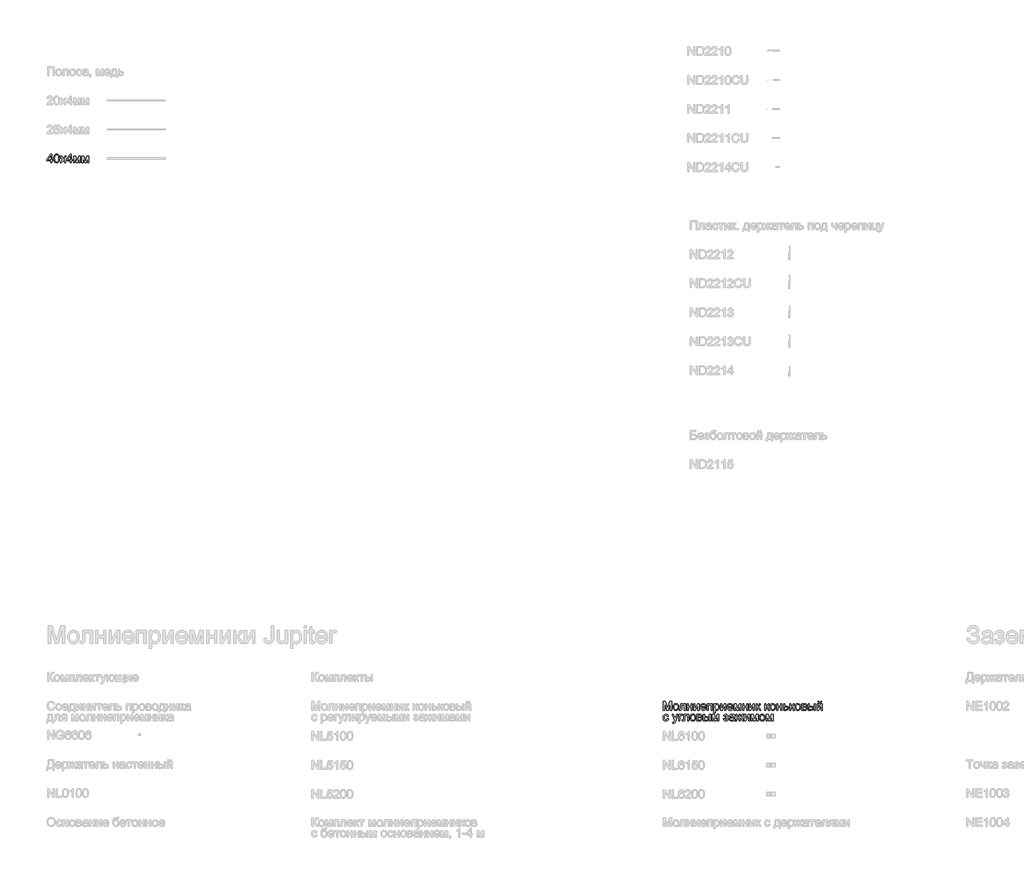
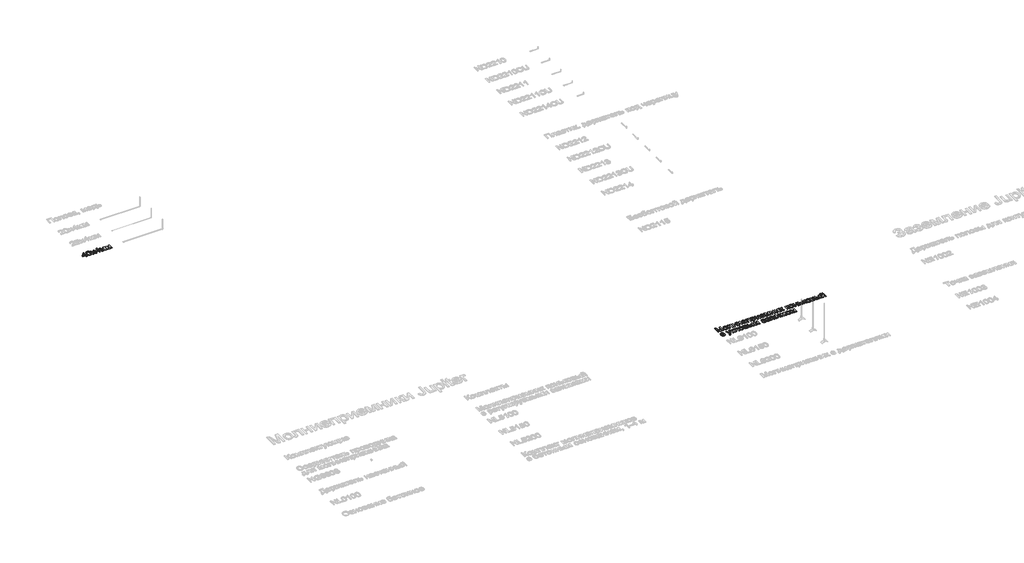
# One storey, part 69 of 124: 2 proxies.
"""IFC4 building model written with IfcOpenShell, lengths in millimetres."""

from ifc_helpers import new_model, si_unit, origin, origin_with_axes, place, context, project, spatial, polyline, outline, extrude, element, save

model = new_model("IFC4")

# Units and contexts
model_context = context("Model", 3, world=origin())
ifc_project = project(units=[si_unit("LENGTHUNIT", "METRE", prefix="MILLI")], contexts=[model_context])

# Site, building, storey
site = spatial("IfcSite", under=ifc_project)
building = spatial("IfcBuilding", under=site)
storey = spatial("IfcBuildingStorey", under=building, Name="Этаж 01", Elevation=0.0)

# Proxies
placement = place(None, origin())
element("IfcBuildingElementProxy", 1, Name="300", ObjectType="300", at=placement, inside=storey, context=model_context, shape_type="SweptSolid", body=[
    extrude(outline(polyline([(1408.1265271, -32219.5141033), (1408.1265271, -32148.8807602), (1271.5687305, -32148.8807602), (1271.5687305, -32111.2096439), (1417.5443062, -31922.8540624), (1445.7976434, -31922.8540624), (1445.7976434, -32111.2096439), (1483.4687597, -32111.2096439), (1483.4687597, -32148.8807602), (1445.7976434, -32148.8807602), (1445.7976434, -32219.5141033), (1408.1265271, -32219.5141033)]), holes=[polyline([(1408.1265271, -32111.2096439), (1408.1265271, -31994.8117806), (1317.9218619, -32111.2096439), (1408.1265271, -32111.2096439)])]), origin_with_axes(), (0.0, 0.0, 1.0), 20.0),
    extrude(outline(polyline([(1516.4309865, -32071.2576592), (1519.1992985, -32023.0191326), (1527.5042345, -31984.5478729), (1541.2630211, -31955.2552691), (1560.3928849, -31934.5527098), (1585.0317815, -31922.2470571), (1615.3176668, -31918.1451728), (1638.5310207, -31920.573194), (1659.3163534, -31927.8572575), (1676.6987777, -31939.7122548), (1689.7034062, -31955.8530773), (1699.5258555, -31976.1417694), (1707.361742, -32000.4403751), (1712.4936958, -32031.2964775), (1714.2043471, -32071.2576592), (1711.4636262, -32119.2202743), (1703.2414636, -32157.5995635), (1689.5654504, -32186.9197585), (1670.4631778, -32207.7050912), (1645.7690989, -32220.0935174), (1615.3176668, -32224.2229928), (1594.5691222, -32222.4295681), (1576.1750225, -32217.0492939), (1560.1353675, -32208.0821703), (1546.4501573, -32195.5281972), (1533.31677, -32172.8344766), (1523.9357792, -32144.5581467), (1518.3071846, -32110.6992076), (1516.4309865, -32071.2576592)]), holes=[polyline([(1554.1021028, -32071.1840828), (1558.5166867, -32130.4406752), (1564.0349166, -32150.7086739), (1571.7604385, -32164.7364742), (1591.4789135, -32181.0980259), (1615.3176668, -32186.5518765), (1639.15642, -32181.0796318), (1658.874895, -32164.6628978), (1666.6004169, -32150.6121048), (1672.1186468, -32130.3487047), (1676.5332308, -32071.1840828), (1672.2657996, -32013.2610627), (1666.9315107, -31993.0597426), (1659.4635062, -31978.6985492), (1639.7818194, -31961.5368541), (1614.8762084, -31955.8162891), (1591.2949725, -31960.8562725), (1572.3490497, -31975.9762225), (1564.3660104, -31991.6112072), (1558.6638395, -32012.6908456), (1554.1021028, -32071.1840828)])]), origin_with_axes(), (0.0, 0.0, 1.0), 20.0),
    extrude(outline(polyline([(1733.0399052, -32219.5141033), (1813.5324858, -32108.2665879), (1737.7487948, -31998.196295), (1783.0718566, -31998.196295), (1819.6393269, -32051.1713023), (1836.7090515, -32076.1872779), (1851.4979077, -32055.733039), (1893.1421495, -31998.196295), (1938.4652113, -31998.196295), (1858.8555476, -32108.2665879), (1935.5221554, -32219.5141033), (1890.1990936, -32219.5141033), (1844.0666914, -32152.6331565), (1835.6054055, -32140.4194743), (1778.362967, -32219.5141033), (1733.0399052, -32219.5141033)])), origin_with_axes(), (0.0, 0.0, 1.0), 20.0),
    extrude(outline(polyline([(2081.497731, -32219.5141033), (2081.497731, -32148.8807602), (1944.9399344, -32148.8807602), (1944.9399344, -32111.2096439), (2090.9155101, -31922.8540624), (2119.1688474, -31922.8540624), (2119.1688474, -32111.2096439), (2156.8399637, -32111.2096439), (2156.8399637, -32148.8807602), (2119.1688474, -32148.8807602), (2119.1688474, -32219.5141033), (2081.497731, -32219.5141033)]), holes=[polyline([(2081.497731, -32111.2096439), (2081.497731, -31994.8117806), (1991.2930658, -32111.2096439), (2081.497731, -32111.2096439)])]), origin_with_axes(), (0.0, 0.0, 1.0), 20.0),
    extrude(outline(polyline([(2199.2199695, -31998.196295), (2264.0407771, -31998.196295), (2313.999152, -32175.3682638), (2367.8570761, -31998.196295), (2429.9555569, -31998.196295), (2429.9555569, -32219.5141033), (2392.2844406, -32219.5141033), (2392.2844406, -32041.3120648), (2338.1322109, -32219.5141033), (2288.6888707, -32219.5141033), (2236.8910858, -32032.7772025), (2236.8910858, -32219.5141033), (2199.2199695, -32219.5141033), (2199.2199695, -31998.196295)])), origin_with_axes(), (0.0, 0.0, 1.0), 20.0),
    extrude(outline(polyline([(2486.4622313, -31998.196295), (2551.2830389, -31998.196295), (2601.2414138, -32175.3682638), (2655.0993379, -31998.196295), (2717.1978187, -31998.196295), (2717.1978187, -32219.5141033), (2679.5267024, -32219.5141033), (2679.5267024, -32041.3120648), (2625.3744727, -32219.5141033), (2575.9311326, -32219.5141033), (2524.1333476, -32032.7772025), (2524.1333476, -32219.5141033), (2486.4622313, -32219.5141033), (2486.4622313, -31998.196295)])), origin_with_axes(), (0.0, 0.0, 1.0), 20.0),
])
element("IfcBuildingElementProxy", 2, Name="300", ObjectType="300", at=placement, inside=storey, context=model_context, shape_type="SweptSolid", body=[
    extrude(outline(polyline([(22499.8220677, -51074.498362), (22499.8220677, -50773.1294316), (22564.6428752, -50773.1294316), (22626.2998976, -50985.5444956), (22638.7343091, -51029.9110642), (22652.1987901, -50981.8656756), (22712.8257429, -50773.1294316), (22777.6465505, -50773.1294316), (22777.6465505, -51074.498362), (22739.9754341, -51074.498362), (22739.9754341, -50810.8005479), (22664.2653195, -51074.498362), (22613.2032986, -51074.498362), (22537.493184, -50810.8005479), (22537.493184, -51074.498362), (22499.8220677, -51074.498362)])), origin_with_axes(), (0.0, 0.0, 1.0), 20.0),
    extrude(outline(polyline([(22829.4443354, -50963.8394579), (22831.4814819, -50935.1768519), (22837.5929216, -50910.4781745), (22847.7786543, -50889.7434255), (22862.0386801, -50872.972605), (22876.395275, -50862.2534434), (22892.2417919, -50854.5968994), (22909.578231, -50850.002973), (22928.4045921, -50848.4716642), (22949.1876255, -50850.336366), (22967.9794977, -50855.9304716), (22984.7802086, -50865.2539809), (22999.5897581, -50878.306894), (23011.6769809, -50894.6477523), (23020.3107115, -50913.8350977), (23025.4909499, -50935.8689299), (23027.217696, -50960.7492491), (23024.1642754, -50998.8066415), (23015.0040137, -51027.7773486), (23000.0036254, -51049.4731893), (22979.4298248, -51065.7059823), (22954.9932633, -51075.8319342), (22928.4045921, -51079.2072515), (22907.318056, -51077.3494475), (22888.3514398, -51071.7760352), (22871.5047437, -51062.4870149), (22856.7779676, -51049.4823863), (22844.8195035, -51032.9828788), (22836.2777434, -51013.2092216), (22831.1526874, -50990.1614146), (22829.4443354, -50963.8394579)]), holes=[polyline([(22867.1154517, -50963.7658815), (22871.4748533, -50997.8593454), (22884.5530582, -51022.1487541), (22904.234745, -51036.6892899), (22928.4045921, -51041.5361352), (22952.4640746, -51036.6616988), (22972.1089731, -51022.0383895), (22985.187178, -50997.427084), (22989.5465797, -50962.5886591), (22985.1595869, -50929.4884766), (22971.9986085, -50905.5301616), (22952.3261188, -50890.9896258), (22928.4045921, -50886.1427805), (22904.234745, -50890.9712317), (22884.5530582, -50905.4565852), (22871.4748533, -50929.6908117), (22867.1154517, -50963.7658815)])]), origin_with_axes(), (0.0, 0.0, 1.0), 20.0),
    extrude(outline(polyline([(23088.43326, -50853.1805537), (23257.9532834, -50853.1805537), (23257.9532834, -51074.2776328), (23220.282167, -51074.2776328), (23220.282167, -50890.85167), (23126.1043763, -50890.85167), (23126.1043763, -50996.4338026), (23123.5659905, -51045.1413788), (23118.8111157, -51056.1686416), (23109.6232629, -51065.7059823), (23095.6805353, -51072.3002671), (23076.6610361, -51074.498362), (23046.0532541, -51072.5853756), (23046.0532541, -51036.8272457), (23062.9022495, -51036.8272457), (23079.9351859, -51034.5095891), (23086.7410028, -51027.1519492), (23088.43326, -50994.3000871), (23088.43326, -50853.1805537)])), origin_with_axes(), (0.0, 0.0, 1.0), 20.0),
    extrude(outline(polyline([(23314.4599578, -50853.1805537), (23352.1310741, -50853.1805537), (23352.1310741, -50937.9405654), (23451.0177544, -50937.9405654), (23451.0177544, -50853.1805537), (23488.6888707, -50853.1805537), (23488.6888707, -51074.498362), (23451.0177544, -51074.498362), (23451.0177544, -50975.6116817), (23352.1310741, -50975.6116817), (23352.1310741, -51074.498362), (23314.4599578, -51074.498362), (23314.4599578, -50853.1805537)])), origin_with_axes(), (0.0, 0.0, 1.0), 20.0),
    extrude(outline(polyline([(23545.1955452, -50853.1805537), (23582.8666615, -50853.1805537), (23582.8666615, -51021.9648131), (23675.4257715, -50853.1805537), (23724.1333476, -50853.1805537), (23724.1333476, -51074.498362), (23686.4622313, -51074.498362), (23686.4622313, -50906.7441722), (23594.4917325, -51074.498362), (23545.1955452, -51074.498362), (23545.1955452, -50853.1805537)])), origin_with_axes(), (0.0, 0.0, 1.0), 20.0),
    extrude(outline(polyline([(23935.5919185, -51008.5739085), (23972.5272708, -51013.282798), (23959.2191396, -51041.1130709), (23937.9831514, -51061.9167978), (23909.2975529, -51074.8846381), (23873.6405905, -51079.2072515), (23850.2662882, -51077.3425497), (23829.4395688, -51071.7484441), (23811.1604321, -51062.4249348), (23795.4288783, -51049.3720217), (23782.7783362, -51032.9529884), (23773.7422347, -51013.5311184), (23768.3205738, -50991.1064115), (23766.5133535, -50965.6788678), (23768.3389679, -50939.3891007), (23773.8158111, -50916.2171336), (23782.9438831, -50896.1629663), (23795.7231839, -50879.226599), (23811.413351, -50865.771315), (23829.2740219, -50856.1603979), (23849.3051965, -50850.3938476), (23871.5068749, -50848.4716642), (23892.9934827, -50850.3892491), (23912.4245498, -50856.1420038), (23929.8000763, -50865.7299283), (23945.1200621, -50879.1530226), (23957.6257507, -50896.0526017), (23966.5583854, -50916.0699808), (23971.9179662, -50939.2051598), (23973.7044932, -50965.4581386), (23973.483764, -50975.6116817), (23804.1844698, -50975.6116817), (23810.7051782, -51003.8098366), (23825.8527193, -51024.5399871), (23847.7141069, -51037.2870982), (23874.3763545, -51041.5361352), (23894.4259232, -51039.5679666), (23911.3117068, -51033.6634605), (23925.0337052, -51023.4547352), (23935.5919185, -51008.5739085)]), holes=[polyline([(23804.1844698, -50937.9405654), (23936.0333769, -50937.9405654), (23930.9382112, -50918.0381495), (23920.9502151, -50903.8011162), (23898.9876599, -50890.5573644), (23871.3597221, -50886.1427805), (23845.9666674, -50889.6652506), (23824.9698025, -50900.2326609), (23810.3740844, -50916.7045772), (23804.1844698, -50937.9405654)])]), origin_with_axes(), (0.0, 0.0, 1.0), 20.0),
    extrude(outline(polyline([(24011.3756095, -50853.1805537), (24180.8956329, -50853.1805537), (24180.8956329, -51074.498362), (24143.2245165, -51074.498362), (24143.2245165, -50890.85167), (24049.0467258, -50890.85167), (24049.0467258, -51074.498362), (24011.3756095, -51074.498362), (24011.3756095, -50853.1805537)])), origin_with_axes(), (0.0, 0.0, 1.0), 20.0),
    extrude(outline(polyline([(24237.4023073, -51159.2583737), (24237.4023073, -50853.1805537), (24275.0734236, -50853.1805537), (24275.0734236, -50890.115906), (24287.3606823, -50871.8965502), (24301.1194689, -50858.8827246), (24317.1591239, -50851.0744293), (24336.2889876, -50848.4716642), (24361.7648158, -50852.1136959), (24384.0400706, -50863.0397912), (24402.176653, -50880.5877623), (24415.2364638, -50904.0954218), (24423.1275326, -50931.8521184), (24425.7578888, -50962.1472007), (24422.7872417, -50994.3644664), (24413.8753004, -51023.1788237), (24399.3071734, -51047.1279416), (24379.3679693, -51064.7494891), (24356.1454183, -51075.5928109), (24331.7272509, -51079.2072515), (24314.409206, -51076.7884274), (24298.9489651, -51069.5319551), (24285.7144103, -51058.5782687), (24275.0734236, -51045.0678024), (24275.0734236, -51159.2583737), (24237.4023073, -51159.2583737)]), holes=[polyline([(24275.0734236, -50965.6052914), (24279.1477167, -50999.3768586), (24291.370596, -51022.9948827), (24309.4060108, -51036.9008221), (24330.9179105, -51041.5361352), (24352.7792981, -51036.7352752), (24371.2745654, -51022.3326951), (24383.8837207, -50997.8501483), (24388.0867725, -50962.8093883), (24383.9848883, -50929.2217621), (24371.6792356, -50905.2726442), (24353.6714119, -50890.9252464), (24332.4630149, -50886.1427805), (24311.1718444, -50891.2287491), (24292.474242, -50906.4866548), (24279.4236282, -50931.4382511), (24275.0734236, -50965.6052914)])]), origin_with_axes(), (0.0, 0.0, 1.0), 20.0),
    extrude(outline(polyline([(24468.1378947, -50853.1805537), (24505.809011, -50853.1805537), (24505.809011, -51021.9648131), (24598.368121, -50853.1805537), (24647.0756971, -50853.1805537), (24647.0756971, -51074.498362), (24609.4045808, -51074.498362), (24609.4045808, -50906.7441722), (24517.434082, -51074.498362), (24468.1378947, -51074.498362), (24468.1378947, -50853.1805537)])), origin_with_axes(), (0.0, 0.0, 1.0), 20.0),
    extrude(outline(polyline([(24858.534268, -51008.5739085), (24895.4696203, -51013.282798), (24882.1614891, -51041.1130709), (24860.9255009, -51061.9167978), (24832.2399024, -51074.8846381), (24796.58294, -51079.2072515), (24773.2086377, -51077.3425497), (24752.3819183, -51071.7484441), (24734.1027816, -51062.4249348), (24718.3712278, -51049.3720217), (24705.7206857, -51032.9529884), (24696.6845842, -51013.5311184), (24691.2629233, -50991.1064115), (24689.455703, -50965.6788678), (24691.2813174, -50939.3891007), (24696.7581606, -50916.2171336), (24705.8862326, -50896.1629663), (24718.6655334, -50879.226599), (24734.3557005, -50865.771315), (24752.2163714, -50856.1603979), (24772.247546, -50850.3938476), (24794.4492244, -50848.4716642), (24815.9358322, -50850.3892491), (24835.3668993, -50856.1420038), (24852.7424258, -50865.7299283), (24868.0624116, -50879.1530226), (24880.5681002, -50896.0526017), (24889.5007349, -50916.0699808), (24894.8603157, -50939.2051598), (24896.6468427, -50965.4581386), (24896.4261135, -50975.6116817), (24727.1268193, -50975.6116817), (24733.6475277, -51003.8098366), (24748.7950688, -51024.5399871), (24770.6564564, -51037.2870982), (24797.318704, -51041.5361352), (24817.3682727, -51039.5679666), (24834.2540563, -51033.6634605), (24847.9760547, -51023.4547352), (24858.534268, -51008.5739085)]), holes=[polyline([(24727.1268193, -50937.9405654), (24858.9757264, -50937.9405654), (24853.8805607, -50918.0381495), (24843.8925646, -50903.8011162), (24821.9300094, -50890.5573644), (24794.3020716, -50886.1427805), (24768.9090169, -50889.6652506), (24747.912152, -50900.2326609), (24733.3164339, -50916.7045772), (24727.1268193, -50937.9405654)])]), origin_with_axes(), (0.0, 0.0, 1.0), 20.0),
    extrude(outline(polyline([(24934.317959, -50853.1805537), (24999.1387665, -50853.1805537), (25049.0971415, -51030.3525226), (25102.9550656, -50853.1805537), (25165.0535464, -50853.1805537), (25165.0535464, -51074.498362), (25127.38243, -51074.498362), (25127.38243, -50896.2963235), (25073.2302004, -51074.498362), (25023.7868602, -51074.498362), (24971.9890753, -50887.7614613), (24971.9890753, -51074.498362), (24934.317959, -51074.498362), (24934.317959, -50853.1805537)])), origin_with_axes(), (0.0, 0.0, 1.0), 20.0),
    extrude(outline(polyline([(25221.5602208, -50853.1805537), (25259.2313371, -50853.1805537), (25259.2313371, -50937.9405654), (25358.1180174, -50937.9405654), (25358.1180174, -50853.1805537), (25395.7891337, -50853.1805537), (25395.7891337, -51074.498362), (25358.1180174, -51074.498362), (25358.1180174, -50975.6116817), (25259.2313371, -50975.6116817), (25259.2313371, -51074.498362), (25221.5602208, -51074.498362), (25221.5602208, -50853.1805537)])), origin_with_axes(), (0.0, 0.0, 1.0), 20.0),
    extrude(outline(polyline([(25452.2958082, -50853.1805537), (25489.9669245, -50853.1805537), (25489.9669245, -51021.9648131), (25582.5260345, -50853.1805537), (25631.2336106, -50853.1805537), (25631.2336106, -51074.498362), (25593.5624943, -51074.498362), (25593.5624943, -50906.7441722), (25501.5919955, -51074.498362), (25452.2958082, -51074.498362), (25452.2958082, -50853.1805537)])), origin_with_axes(), (0.0, 0.0, 1.0), 20.0),
    extrude(outline(polyline([(25687.7402851, -50853.1805537), (25725.4114014, -50853.1805537), (25725.4114014, -50947.3583445), (25740.7336865, -50945.6660873), (25750.6481063, -50940.5893158), (25759.4220919, -50927.3455639), (25771.3230744, -50901.1523659), (25788.5031636, -50867.1232813), (25803.6599018, -50856.0500333), (25831.2142632, -50853.1805537), (25838.4247503, -50853.1805537), (25838.4247503, -50891.0723992), (25828.2712073, -50890.85167), (25809.8771075, -50894.8247956), (25796.9276613, -50919.620042), (25781.7341349, -50946.4386395), (25760.4337673, -50959.5720267), (25772.3715381, -50964.874126), (25784.1989442, -50974.2321242), (25807.5226627, -51005.1158177), (25847.8425294, -51074.498362), (25805.0210652, -51074.498362), (25765.5105389, -51006.5873457), (25745.6449111, -50977.8557619), (25736.3558908, -50972.6410346), (25725.4114014, -50970.9027922), (25725.4114014, -51074.498362), (25687.7402851, -51074.498362), (25687.7402851, -50853.1805537)])), origin_with_axes(), (0.0, 0.0, 1.0), 20.0),
    extrude(outline(polyline([(25989.1092155, -50853.1805537), (26026.7803319, -50853.1805537), (26026.7803319, -50947.3583445), (26042.102617, -50945.6660873), (26052.0170367, -50940.5893158), (26060.7910223, -50927.3455639), (26072.6920049, -50901.1523659), (26089.872094, -50867.1232813), (26105.0288322, -50856.0500333), (26132.5831937, -50853.1805537), (26139.7936808, -50853.1805537), (26139.7936808, -50891.0723992), (26129.6401377, -50890.85167), (26111.2460379, -50894.8247956), (26098.2965917, -50919.620042), (26083.1030653, -50946.4386395), (26061.8026978, -50959.5720267), (26073.7404685, -50964.874126), (26085.5678747, -50974.2321242), (26108.8915932, -51005.1158177), (26149.2114598, -51074.498362), (26106.3899956, -51074.498362), (26066.8794693, -51006.5873457), (26047.0138416, -50977.8557619), (26037.7248212, -50972.6410346), (26026.7803319, -50970.9027922), (26026.7803319, -51074.498362), (25989.1092155, -51074.498362), (25989.1092155, -50853.1805537)])), origin_with_axes(), (0.0, 0.0, 1.0), 20.0),
    extrude(outline(polyline([(26163.3381285, -50963.8394579), (26165.375275, -50935.1768519), (26171.4867147, -50910.4781745), (26181.6724474, -50889.7434255), (26195.9324732, -50872.972605), (26210.2890681, -50862.2534434), (26226.135585, -50854.5968994), (26243.4720241, -50850.002973), (26262.2983852, -50848.4716642), (26283.0814186, -50850.336366), (26301.8732908, -50855.9304716), (26318.6740017, -50865.2539809), (26333.4835512, -50878.306894), (26345.570774, -50894.6477523), (26354.2045046, -50913.8350977), (26359.384743, -50935.8689299), (26361.1114891, -50960.7492491), (26358.0580685, -50998.8066415), (26348.8978068, -51027.7773486), (26333.8974185, -51049.4731893), (26313.3236179, -51065.7059823), (26288.8870564, -51075.8319342), (26262.2983852, -51079.2072515), (26241.2118491, -51077.3494475), (26222.2452329, -51071.7760352), (26205.3985368, -51062.4870149), (26190.6717607, -51049.4823863), (26178.7132966, -51032.9828788), (26170.1715365, -51013.2092216), (26165.0464805, -50990.1614146), (26163.3381285, -50963.8394579)]), holes=[polyline([(26201.0092448, -50963.7658815), (26205.3686464, -50997.8593454), (26218.4468513, -51022.1487541), (26238.1285381, -51036.6892899), (26262.2983852, -51041.5361352), (26286.3578676, -51036.6616988), (26306.0027662, -51022.0383895), (26319.0809711, -50997.427084), (26323.4403728, -50962.5886591), (26319.05338, -50929.4884766), (26305.8924016, -50905.5301616), (26286.2199119, -50890.9896258), (26262.2983852, -50886.1427805), (26238.1285381, -50890.9712317), (26218.4468513, -50905.4565852), (26205.3686464, -50929.6908117), (26201.0092448, -50963.7658815)])]), origin_with_axes(), (0.0, 0.0, 1.0), 20.0),
    extrude(outline(polyline([(26403.4914949, -50853.1805537), (26441.1626112, -50853.1805537), (26441.1626112, -50937.9405654), (26540.0492915, -50937.9405654), (26540.0492915, -50853.1805537), (26577.7204078, -50853.1805537), (26577.7204078, -51074.498362), (26540.0492915, -51074.498362), (26540.0492915, -50975.6116817), (26441.1626112, -50975.6116817), (26441.1626112, -51074.498362), (26403.4914949, -51074.498362), (26403.4914949, -50853.1805537)])), origin_with_axes(), (0.0, 0.0, 1.0), 20.0),
    extrude(outline(polyline([(26634.2270823, -50853.1805537), (26671.8981986, -50853.1805537), (26671.8981986, -50933.2316759), (26715.308274, -50933.2316759), (26752.9426021, -50937.9497624), (26768.0901433, -50943.8473707), (26780.7912692, -50952.1040222), (26790.8344476, -50962.4346085), (26798.0081465, -50974.554021), (26803.7471057, -51004.1593245), (26798.8634722, -51031.1158777), (26784.2125717, -51053.8601821), (26772.9806746, -51062.8893858), (26758.819517, -51069.338817), (26721.7094207, -51074.498362), (26634.2270823, -51074.498362), (26634.2270823, -50853.1805537)]), holes=[polyline([(26671.8981986, -51036.8272457), (26707.0677173, -51036.8272457), (26734.3553643, -51034.84988), (26752.5011437, -51028.9177828), (26762.682278, -51018.7918309), (26766.0759894, -51004.2329009), (26763.5651947, -50991.9272482), (26756.0328109, -50981.0563352), (26739.8919884, -50973.4411779), (26711.5558777, -50970.9027922), (26671.8981986, -50970.9027922), (26671.8981986, -51036.8272457)])]), origin_with_axes(), (0.0, 0.0, 1.0), 20.0),
    extrude(outline(polyline([(26850.836001, -50853.1805537), (26888.5071174, -50853.1805537), (26888.5071174, -50947.3583445), (26903.8294025, -50945.6660873), (26913.7438222, -50940.5893158), (26922.5178078, -50927.3455639), (26934.4187904, -50901.1523659), (26951.5988795, -50867.1232813), (26966.7556177, -50856.0500333), (26994.3099792, -50853.1805537), (27001.5204663, -50853.1805537), (27001.5204663, -50891.0723992), (26991.3669232, -50890.85167), (26972.9728234, -50894.8247956), (26960.0233772, -50919.620042), (26944.8298508, -50946.4386395), (26923.5294833, -50959.5720267), (26935.467254, -50964.874126), (26947.2946602, -50974.2321242), (26970.6183787, -51005.1158177), (27010.9382453, -51074.498362), (26968.1167811, -51074.498362), (26928.6062548, -51006.5873457), (26908.7406271, -50977.8557619), (26899.4516067, -50972.6410346), (26888.5071174, -50970.9027922), (26888.5071174, -51074.498362), (26850.836001, -51074.498362), (26850.836001, -50853.1805537)])), origin_with_axes(), (0.0, 0.0, 1.0), 20.0),
    extrude(outline(polyline([(27025.064914, -50963.8394579), (27027.1020605, -50935.1768519), (27033.2135002, -50910.4781745), (27043.3992329, -50889.7434255), (27057.6592587, -50872.972605), (27072.0158536, -50862.2534434), (27087.8623705, -50854.5968994), (27105.1988096, -50850.002973), (27124.0251707, -50848.4716642), (27144.8082041, -50850.336366), (27163.6000763, -50855.9304716), (27180.4007872, -50865.2539809), (27195.2103367, -50878.306894), (27207.2975595, -50894.6477523), (27215.9312901, -50913.8350977), (27221.1115285, -50935.8689299), (27222.8382746, -50960.7492491), (27219.784854, -50998.8066415), (27210.6245923, -51027.7773486), (27195.624204, -51049.4731893), (27175.0504034, -51065.7059823), (27150.6138419, -51075.8319342), (27124.0251707, -51079.2072515), (27102.9386346, -51077.3494475), (27083.9720184, -51071.7760352), (27067.1253223, -51062.4870149), (27052.3985462, -51049.4823863), (27040.4400821, -51032.9828788), (27031.898322, -51013.2092216), (27026.773266, -50990.1614146), (27025.064914, -50963.8394579)]), holes=[polyline([(27062.7360303, -50963.7658815), (27067.0954319, -50997.8593454), (27080.1736368, -51022.1487541), (27099.8553236, -51036.6892899), (27124.0251707, -51041.5361352), (27148.0846532, -51036.6616988), (27167.7295517, -51022.0383895), (27180.8077566, -50997.427084), (27185.1671583, -50962.5886591), (27180.7801655, -50929.4884766), (27167.6191871, -50905.5301616), (27147.9466974, -50890.9896258), (27124.0251707, -50886.1427805), (27099.8553236, -50890.9712317), (27080.1736368, -50905.4565852), (27067.0954319, -50929.6908117), (27062.7360303, -50963.7658815)])]), origin_with_axes(), (0.0, 0.0, 1.0), 20.0),
    extrude(outline(polyline([(27265.2182804, -50853.1805537), (27348.2124585, -50853.1805537), (27374.8931002, -50854.4405495), (27393.7194613, -50858.220537), (27407.5702184, -50865.3574477), (27419.3240482, -50876.6882132), (27427.3530727, -50891.4494783), (27430.0294143, -50908.8778878), (27428.4107335, -50922.9217829), (27423.5546911, -50935.0342976), (27415.4428931, -50945.2706141), (27404.0569454, -50953.6859148), (27417.999673, -50961.5126042), (27429.3672267, -50974.1033655), (27436.9272017, -50990.4649173), (27439.4471933, -51009.6039781), (27433.0644407, -51038.3171678), (27417.8893084, -51058.5322834), (27393.8666141, -51070.5068424), (27360.9411756, -51074.498362), (27265.2182804, -51074.498362), (27265.2182804, -50853.1805537)]), holes=[polyline([(27302.8893967, -50937.9405654), (27340.1190546, -50937.9405654), (27370.8372012, -50936.027579), (27385.7732102, -50928.3756335), (27390.712026, -50922.0480632), (27392.3582979, -50914.5432705), (27389.4704243, -50903.3044755), (27380.8068033, -50896.0755943), (27365.1534244, -50892.1576511), (27341.296277, -50890.85167), (27302.8893967, -50890.85167), (27302.8893967, -50937.9405654)]), polyline([(27302.8893967, -51036.8272457), (27349.0953753, -51036.8272457), (27374.2768979, -51035.1257915), (27390.0774296, -51030.0214288), (27398.5571096, -51020.7416055), (27401.776077, -51006.5137693), (27400.1665933, -50997.0867932), (27395.3381421, -50988.3771869), (27387.9253199, -50981.562173), (27378.5627231, -50977.8189737), (27345.4165554, -50975.6116817), (27302.8893967, -50975.6116817), (27302.8893967, -51036.8272457)])]), origin_with_axes(), (0.0, 0.0, 1.0), 20.0),
    extrude(outline(polyline([(27693.7272284, -50853.1805537), (27731.3983447, -50853.1805537), (27731.3983447, -51074.498362), (27693.7272284, -51074.498362), (27693.7272284, -50853.1805537)])), origin_with_axes(), (0.0, 0.0, 1.0), 20.0),
    extrude(outline(polyline([(27486.5360887, -50853.1805537), (27524.207205, -50853.1805537), (27524.207205, -50933.2316759), (27570.7810656, -50933.2316759), (27611.0365529, -50937.9497624), (27627.2532511, -50943.8473707), (27640.8625857, -50952.1040222), (27651.6300318, -50962.4346085), (27659.3210648, -50974.554021), (27663.9356846, -50988.4622596), (27665.4738912, -51004.1593245), (27660.3143462, -51031.1158777), (27644.8357112, -51053.8601821), (27632.9738162, -51062.8893858), (27618.0263108, -51069.338817), (27578.8744695, -51074.498362), (27486.5360887, -51074.498362), (27486.5360887, -50853.1805537)]), holes=[polyline([(27524.207205, -51036.8272457), (27562.9083909, -51036.8272457), (27592.9091676, -51034.84988), (27612.8667659, -51028.9177828), (27624.0687726, -51018.7918309), (27627.8027749, -51004.2329009), (27625.0344628, -50991.9272482), (27616.7295268, -50981.0563352), (27598.9700235, -50973.4411779), (27567.8380096, -50970.9027922), (27524.207205, -50970.9027922), (27524.207205, -51036.8272457)])]), origin_with_axes(), (0.0, 0.0, 1.0), 20.0),
    extrude(outline(polyline([(27787.9050192, -50853.1805537), (27825.5761355, -50853.1805537), (27825.5761355, -51021.9648131), (27918.1352455, -50853.1805537), (27966.8428216, -50853.1805537), (27966.8428216, -51074.498362), (27929.1717053, -51074.498362), (27929.1717053, -50906.7441722), (27837.2012065, -51074.498362), (27787.9050192, -51074.498362), (27787.9050192, -50853.1805537)])), origin_with_axes(), (0.0, 0.0, 1.0), 20.0),
    extrude(outline(polyline([(27910.3361472, -50773.1294316), (27938.5894844, -50773.1294316), (27932.5102344, -50797.2532934), (27920.3057492, -50815.0311908), (27902.5278518, -50825.9848772), (27879.7283652, -50829.636106), (27854.988301, -50826.0124684), (27835.8032549, -50815.1415554), (27822.6882618, -50797.3912491), (27816.1583564, -50773.1294316), (27844.4116936, -50773.1294316), (27848.3848192, -50785.5362518), (27855.0066951, -50794.3562227), (27864.3141096, -50799.6261323), (27876.3438508, -50801.3827688), (27889.9186964, -50799.6813146), (27899.7411457, -50794.5769519), (27906.3630216, -50785.8121633), (27910.3361472, -50773.1294316)])), origin_with_axes(), (0.0, 0.0, 1.0), 20.0),
    extrude(outline(polyline([(22636.3798643, -51360.3716934), (22674.0509806, -51365.0805829), (22663.5479496, -51398.5854356), (22643.8110806, -51423.904914), (22616.6981776, -51439.8250073), (22584.0670446, -51445.1317051), (22562.9391218, -51443.2807988), (22543.9954983, -51437.7280799), (22527.2361741, -51428.4735485), (22512.6611493, -51415.5172045), (22500.8636336, -51399.1027697), (22492.4368366, -51379.473966), (22487.3807585, -51356.6307933), (22485.6953991, -51330.5732518), (22488.5740757, -51297.050005), (22497.2101055, -51267.9965244), (22511.7414443, -51244.5348502), (22532.3060479, -51227.7870223), (22556.9081563, -51217.7438439), (22583.5520098, -51214.3961177), (22615.3829994, -51218.9946426), (22640.8312364, -51232.7902175), (22659.0873805, -51255.0470782), (22669.3420911, -51285.0294608), (22631.6709748, -51289.7383503), (22624.8375667, -51273.3032222), (22614.19658, -51261.5218013), (22600.3366258, -51254.4308758), (22583.8463154, -51252.067234), (22559.5017244, -51256.7209412), (22540.1787226, -51270.682063), (22527.5695672, -51294.7047572), (22523.3665154, -51329.5431822), (22527.4775967, -51364.8506567), (22539.8108406, -51388.9561244), (22558.7843545, -51402.8344727), (22582.8162458, -51407.4605888), (22602.3231886, -51404.5727151), (22618.3168583, -51395.9090941), (22629.9511264, -51381.2489966), (22636.3798643, -51360.3716934)])), origin_with_axes(), (0.0, 0.0, 1.0), 20.0),
    extrude(outline(polyline([(22824.7354458, -51525.1828272), (22820.0265563, -51488.9096625), (22839.15642, -51492.2206005), (22857.035485, -51488.0635339), (22867.9983685, -51476.4752511), (22878.2990643, -51448.7369486), (22881.2421203, -51439.6134751), (22801.1909981, -51219.1050072), (22840.9222536, -51219.1050072), (22883.3758359, -51341.9775936), (22898.1646921, -51391.1266282), (22912.9535483, -51347.7165528), (22956.5843529, -51219.1050072), (22996.0213028, -51219.1050072), (22918.986813, -51445.7203163), (22898.9740325, -51494.8693508), (22888.7285189, -51510.5595179), (22877.1218419, -51521.4304309), (22863.6389668, -51527.7763953), (22847.7648587, -51529.8917168), (22824.7354458, -51525.1828272)])), origin_with_axes(), (0.0, 0.0, 1.0), 20.0),
    extrude(outline(polyline([(23027.217696, -51219.1050072), (23149.648824, -51219.1050072), (23149.648824, -51256.7761235), (23064.8888123, -51256.7761235), (23064.8888123, -51440.4228155), (23027.217696, -51440.4228155), (23027.217696, -51219.1050072)])), origin_with_axes(), (0.0, 0.0, 1.0), 20.0),
    extrude(outline(polyline([(23196.7377194, -51219.1050072), (23366.2577427, -51219.1050072), (23366.2577427, -51440.2020863), (23328.5866264, -51440.2020863), (23328.5866264, -51256.7761235), (23234.4088357, -51256.7761235), (23234.4088357, -51362.3582562), (23231.8704499, -51411.0658323), (23227.1155751, -51422.0930951), (23217.9277223, -51431.6304359), (23203.9849947, -51438.2247206), (23184.9654955, -51440.4228155), (23154.3577135, -51438.5098292), (23154.3577135, -51402.7516992), (23171.2067089, -51402.7516992), (23188.2396453, -51400.4340427), (23195.0454622, -51393.0764028), (23196.7377194, -51360.2245406), (23196.7377194, -51219.1050072)])), origin_with_axes(), (0.0, 0.0, 1.0), 20.0),
    extrude(outline(polyline([(23413.3466381, -51329.7639114), (23415.3837847, -51301.1013054), (23421.4952243, -51276.402628), (23431.6809571, -51255.667879), (23445.9409829, -51238.8970586), (23460.2975778, -51228.1778969), (23476.1440947, -51220.5213529), (23493.4805337, -51215.9274265), (23512.3068948, -51214.3961177), (23533.0899283, -51216.2608196), (23551.8818005, -51221.8549252), (23568.6825113, -51231.1784345), (23583.4920609, -51244.2313475), (23595.5792837, -51260.5722059), (23604.2130143, -51279.7595512), (23609.3932526, -51301.7933834), (23611.1199987, -51326.6737026), (23608.0665782, -51364.731095), (23598.9063165, -51393.7018022), (23583.9059281, -51415.3976428), (23563.3321276, -51431.6304359), (23538.895566, -51441.7563878), (23512.3068948, -51445.1317051), (23491.2203587, -51443.273901), (23472.2537426, -51437.7004888), (23455.4070465, -51428.4114684), (23440.6802704, -51415.4068399), (23428.7218063, -51398.9073324), (23420.1800462, -51379.1336751), (23415.0549901, -51356.0858681), (23413.3466381, -51329.7639114)]), holes=[polyline([(23451.0177544, -51329.690335), (23455.3771561, -51363.7837989), (23468.455361, -51388.0732076), (23488.1370477, -51402.6137435), (23512.3068948, -51407.4605888), (23536.3663773, -51402.5861523), (23556.0112758, -51387.962843), (23569.0894808, -51363.3515375), (23573.4488824, -51328.5131126), (23569.0618896, -51295.4129301), (23555.9009112, -51271.4546152), (23536.2284216, -51256.9140793), (23512.3068948, -51252.067234), (23488.1370477, -51256.8956852), (23468.455361, -51271.3810388), (23455.3771561, -51295.6152652), (23451.0177544, -51329.690335)])]), origin_with_axes(), (0.0, 0.0, 1.0), 20.0),
    extrude(outline(polyline([(23653.5000046, -51219.1050072), (23736.4941827, -51219.1050072), (23763.1748244, -51220.3650031), (23782.0011855, -51224.1449906), (23795.8519426, -51231.2819013), (23807.6057723, -51242.6126667), (23815.6347969, -51257.3739318), (23818.3111384, -51274.8023413), (23816.6924576, -51288.8462365), (23811.8364153, -51300.9587512), (23803.7246173, -51311.1950677), (23792.3386695, -51319.6103683), (23806.2813972, -51327.4370578), (23817.6489508, -51340.0278191), (23825.2089258, -51356.3893708), (23827.7289175, -51375.5284316), (23821.3461649, -51404.2416213), (23806.1710326, -51424.4567369), (23782.1483383, -51436.4312959), (23749.2228997, -51440.4228155), (23653.5000046, -51440.4228155), (23653.5000046, -51219.1050072)]), holes=[polyline([(23691.1711209, -51303.8650189), (23728.4007788, -51303.8650189), (23759.1189254, -51301.9520326), (23774.0549344, -51294.3000871), (23778.9937502, -51287.9725167), (23780.6400221, -51280.467724), (23777.7521484, -51269.2289291), (23769.0885275, -51262.0000479), (23753.4351486, -51258.0821046), (23729.5780012, -51256.7761235), (23691.1711209, -51256.7761235), (23691.1711209, -51303.8650189)]), polyline([(23691.1711209, -51402.7516992), (23737.3770995, -51402.7516992), (23762.558622, -51401.050245), (23778.3591537, -51395.9458823), (23786.8388337, -51386.666059), (23790.0578012, -51372.4382228), (23788.4483174, -51363.0112467), (23783.6198663, -51354.3016405), (23776.2070441, -51347.4866265), (23766.8444473, -51343.7434272), (23733.6982795, -51341.5361352), (23691.1711209, -51341.5361352), (23691.1711209, -51402.7516992)])]), origin_with_axes(), (0.0, 0.0, 1.0), 20.0),
    extrude(outline(polyline([(24082.0089526, -51219.1050072), (24119.6800689, -51219.1050072), (24119.6800689, -51440.4228155), (24082.0089526, -51440.4228155), (24082.0089526, -51219.1050072)])), origin_with_axes(), (0.0, 0.0, 1.0), 20.0),
    extrude(outline(polyline([(23874.8178129, -51219.1050072), (23912.4889292, -51219.1050072), (23912.4889292, -51299.1561294), (23959.0627898, -51299.1561294), (23999.3182771, -51303.874216), (24015.5349753, -51309.7718242), (24029.1443098, -51318.0284757), (24039.911756, -51328.359062), (24047.602789, -51340.4784745), (24052.2174087, -51354.3867132), (24053.7556153, -51370.0837781), (24048.5960703, -51397.0403313), (24033.1174354, -51419.7846356), (24021.2555403, -51428.8138393), (24006.308035, -51435.2632706), (23967.1561937, -51440.4228155), (23874.8178129, -51440.4228155), (23874.8178129, -51219.1050072)]), holes=[polyline([(23912.4889292, -51402.7516992), (23951.1901151, -51402.7516992), (23981.1908918, -51400.7743335), (24001.14849, -51394.8422363), (24012.3504968, -51384.7162844), (24016.084499, -51370.1573545), (24013.316187, -51357.8517017), (24005.011251, -51346.9807888), (23987.2517476, -51339.3656315), (23956.1197338, -51336.8272457), (23912.4889292, -51336.8272457), (23912.4889292, -51402.7516992)])]), origin_with_axes(), (0.0, 0.0, 1.0), 20.0),
    extrude(outline(polyline([(24176.1867433, -51219.1050072), (24241.0075509, -51219.1050072), (24290.9659258, -51396.2769761), (24344.8238499, -51219.1050072), (24406.9223307, -51219.1050072), (24406.9223307, -51440.4228155), (24369.2512144, -51440.4228155), (24369.2512144, -51262.2207771), (24315.0989847, -51440.4228155), (24265.6556445, -51440.4228155), (24213.8578596, -51253.6859148), (24213.8578596, -51440.4228155), (24176.1867433, -51440.4228155), (24176.1867433, -51219.1050072)])), origin_with_axes(), (0.0, 0.0, 1.0), 20.0),
    extrude(outline(polyline([(24632.9490285, -51341.5361352), (24632.9490285, -51303.8650189), (24662.6738937, -51302.3934909), (24677.6834791, -51294.5576045), (24682.9809799, -51287.2091616), (24684.7468134, -51278.1868557), (24682.3831716, -51267.4722926), (24675.2922462, -51259.1673565), (24664.4673185, -51253.8422646), (24650.9016699, -51252.067234), (24637.1888685, -51253.8330676), (24625.7017532, -51259.1305683), (24616.440324, -51267.9597362), (24609.4045808, -51280.3205712), (24567.024575, -51275.6116817), (24578.2633699, -51248.8298724), (24595.3514886, -51229.7000087), (24618.288931, -51218.2220905), (24647.0756971, -51214.3961177), (24678.5663959, -51219.059022), (24702.4051492, -51233.0477349), (24717.4147346, -51253.5111708), (24722.4179298, -51277.5982445), (24720.6383006, -51289.9590795), (24715.2994131, -51300.9955394), (24706.4012674, -51310.707624), (24693.9438633, -51319.0953335), (24708.4843992, -51329.5615763), (24718.8494744, -51342.5662048), (24725.0574831, -51358.1460073), (24727.1268193, -51376.337772), (24721.8753038, -51404.0668774), (24706.1207574, -51426.0386295), (24680.9300377, -51440.3584362), (24647.3700027, -51445.1317051), (24614.5457317, -51440.7171211), (24589.4285885, -51427.4733693), (24572.0185731, -51405.4004496), (24562.3156855, -51374.498362), (24604.6956913, -51369.7894725), (24611.0416557, -51385.7187629), (24621.6918395, -51397.6013513), (24635.4138379, -51404.9957794), (24650.9752463, -51407.4605888), (24666.1319845, -51405.096947), (24678.4928195, -51398.0060215), (24686.7149821, -51387.2362761), (24689.455703, -51373.8361744), (24687.7542488, -51363.2227788), (24682.6498861, -51354.0441231), (24668.1553355, -51343.4491216), (24640.3066684, -51341.315406), (24632.9490285, -51341.5361352)])), origin_with_axes(), (0.0, 0.0, 1.0), 20.0),
    extrude(outline(polyline([(24915.4824008, -51412.1694783), (24897.4837742, -51427.602128), (24878.9517187, -51437.7004888), (24859.46317, -51443.273901), (24838.5950638, -51445.1317051), (24807.1135621, -51440.6619388), (24783.8910111, -51427.2526401), (24769.5712045, -51406.8903717), (24764.7979356, -51381.5616963), (24766.6005574, -51365.9451056), (24772.0084227, -51351.7632547), (24780.3501469, -51339.6231489), (24790.9543455, -51330.1317934), (24817.3314845, -51317.7709583), (24849.9258293, -51312.1055756), (24888.4430742, -51306.1458873), (24915.2616716, -51299.1561294), (24915.4824008, -51290.7684199), (24912.8888328, -51273.9562127), (24905.1081286, -51262.9565411), (24887.7073102, -51254.7895608), (24863.4638867, -51252.067234), (24841.023085, -51253.8790528), (24825.351312, -51259.3145093), (24814.66434, -51269.3668848), (24807.1779414, -51285.0294608), (24769.5068251, -51280.3205712), (24776.0459276, -51259.7191795), (24785.8039975, -51243.5323717), (24799.6915428, -51231.1531426), (24818.6190715, -51221.9744868), (24841.768046, -51216.29071), (24868.319929, -51214.3961177), (24893.7865602, -51216.0699808), (24913.9740846, -51221.09157), (24929.1952022, -51228.642348), (24939.7626125, -51237.9037772), (24946.7707645, -51249.3541043), (24951.3141072, -51263.4715759), (24953.1535171, -51296.4338026), (24953.1535171, -51343.3019688), (24955.0665035, -51408.7481758), (24962.5712962, -51440.4228155), (24924.9001799, -51440.4228155), (24915.4824008, -51412.1694783)]), holes=[polyline([(24915.4824008, -51336.8272457), (24854.7082952, -51348.3787403), (24822.2978914, -51354.4855815), (24807.6193998, -51364.4183953), (24802.4690519, -51378.9129459), (24805.2741521, -51390.1149527), (24813.6894528, -51399.2936085), (24827.5310128, -51405.4188437), (24846.6148913, -51407.4605888), (24866.8484011, -51405.2073115), (24884.727466, -51398.4474799), (24899.2220166, -51388.4870749), (24909.3019833, -51376.6320776), (24913.7717495, -51364.4183953), (24915.2616716, -51347.4958236), (24915.4824008, -51336.8272457)])]), origin_with_axes(), (0.0, 0.0, 1.0), 20.0),
    extrude(outline(polyline([(25141.5090987, -51219.1050072), (25141.5090987, -51313.282798), (25154.7988357, -51311.3422205), (25163.4716538, -51305.5204879), (25184.2569865, -51265.2374094), (25197.2248268, -51240.1294633), (25209.052233, -51226.6097999), (25223.4180249, -51220.9812054), (25244.2953281, -51219.1050072), (25259.2313371, -51219.1050072), (25259.2313371, -51256.9968527), (25248.8570649, -51256.7761235), (25229.4328955, -51260.6756727), (25215.9684145, -51285.1030372), (25200.3334297, -51311.8848464), (25178.0029926, -51325.4964802), (25190.3960173, -51330.7985795), (25202.6326922, -51340.1565778), (25226.6369923, -51371.0402712), (25268.6491162, -51440.4228155), (25225.45977, -51440.4228155), (25184.1098337, -51371.9967644), (25172.8066594, -51354.034926), (25163.0301954, -51343.5594862), (25153.1433668, -51338.5103058), (25141.5090987, -51336.8272457), (25141.5090987, -51440.4228155), (25103.8379824, -51440.4228155), (25103.8379824, -51336.8272457), (25092.2956848, -51338.4735176), (25082.390462, -51343.4123334), (25072.5404216, -51353.8141968), (25061.1636709, -51371.8496116), (25019.8137347, -51440.4228155), (24976.6979648, -51440.4228155), (25018.5629359, -51371.0402712), (25042.7511771, -51340.1565778), (25055.0522313, -51330.7985795), (25067.4912412, -51325.4964802), (25053.1070552, -51318.2859931), (25043.7996407, -51310.4868948), (25023.4925546, -51271.8592853), (25013.5597407, -51259.1305683), (24997.2993565, -51256.5553943), (24986.1157439, -51256.7761235), (24986.1157439, -51219.1050072), (24991.7811266, -51219.1050072), (25024.8169298, -51221.459452), (25041.9602308, -51231.4658423), (25061.1636709, -51265.2374094), (25081.7282744, -51305.2629705), (25090.4010925, -51311.2778411), (25103.8379824, -51313.282798), (25103.8379824, -51219.1050072), (25141.5090987, -51219.1050072)])), origin_with_axes(), (0.0, 0.0, 1.0), 20.0),
    extrude(outline(polyline([(25287.4846743, -51219.1050072), (25325.1557907, -51219.1050072), (25325.1557907, -51387.8892666), (25417.7149006, -51219.1050072), (25466.4224768, -51219.1050072), (25466.4224768, -51440.4228155), (25428.7513605, -51440.4228155), (25428.7513605, -51272.6686257), (25336.7808617, -51440.4228155), (25287.4846743, -51440.4228155), (25287.4846743, -51219.1050072)])), origin_with_axes(), (0.0, 0.0, 1.0), 20.0),
    extrude(outline(polyline([(25522.9291513, -51219.1050072), (25587.7499588, -51219.1050072), (25637.7083338, -51396.2769761), (25691.5662578, -51219.1050072), (25753.6647386, -51219.1050072), (25753.6647386, -51440.4228155), (25715.9936223, -51440.4228155), (25715.9936223, -51262.2207771), (25661.8413926, -51440.4228155), (25612.3980525, -51440.4228155), (25560.6002676, -51253.6859148), (25560.6002676, -51440.4228155), (25522.9291513, -51440.4228155), (25522.9291513, -51219.1050072)])), origin_with_axes(), (0.0, 0.0, 1.0), 20.0),
    extrude(outline(polyline([(25800.753634, -51329.7639114), (25802.7907806, -51301.1013054), (25808.9022202, -51276.402628), (25819.087953, -51255.667879), (25833.3479788, -51238.8970586), (25847.7045737, -51228.1778969), (25863.5510906, -51220.5213529), (25880.8875296, -51215.9274265), (25899.7138907, -51214.3961177), (25920.4969242, -51216.2608196), (25939.2887963, -51221.8549252), (25956.0895072, -51231.1784345), (25970.8990568, -51244.2313475), (25982.9862796, -51260.5722059), (25991.6200102, -51279.7595512), (25996.8002485, -51301.7933834), (25998.5269946, -51326.6737026), (25995.4735741, -51364.731095), (25986.3133124, -51393.7018022), (25971.312924, -51415.3976428), (25950.7391234, -51431.6304359), (25926.3025619, -51441.7563878), (25899.7138907, -51445.1317051), (25878.6273546, -51443.273901), (25859.6607385, -51437.7004888), (25842.8140424, -51428.4114684), (25828.0872663, -51415.4068399), (25816.1288022, -51398.9073324), (25807.5870421, -51379.1336751), (25802.461986, -51356.0858681), (25800.753634, -51329.7639114)]), holes=[polyline([(25838.4247503, -51329.690335), (25842.784152, -51363.7837989), (25855.8623569, -51388.0732076), (25875.5440436, -51402.6137435), (25899.7138907, -51407.4605888), (25923.7733732, -51402.5861523), (25943.4182717, -51387.962843), (25956.4964767, -51363.3515375), (25960.8558783, -51328.5131126), (25956.4688855, -51295.4129301), (25943.3079071, -51271.4546152), (25923.6354175, -51256.9140793), (25899.7138907, -51252.067234), (25875.5440436, -51256.8956852), (25855.8623569, -51271.3810388), (25842.784152, -51295.6152652), (25838.4247503, -51329.690335)])]), origin_with_axes(), (0.0, 0.0, 1.0), 20.0),
    extrude(outline(polyline([(26040.9070005, -51219.1050072), (26105.727808, -51219.1050072), (26155.686183, -51396.2769761), (26209.5441071, -51219.1050072), (26271.6425878, -51219.1050072), (26271.6425878, -51440.4228155), (26233.9714715, -51440.4228155), (26233.9714715, -51262.2207771), (26179.8192418, -51440.4228155), (26130.3759017, -51440.4228155), (26078.5781168, -51253.6859148), (26078.5781168, -51440.4228155), (26040.9070005, -51440.4228155), (26040.9070005, -51219.1050072)])), origin_with_axes(), (0.0, 0.0, 1.0), 20.0),
])

save(model, "model.ifc")
